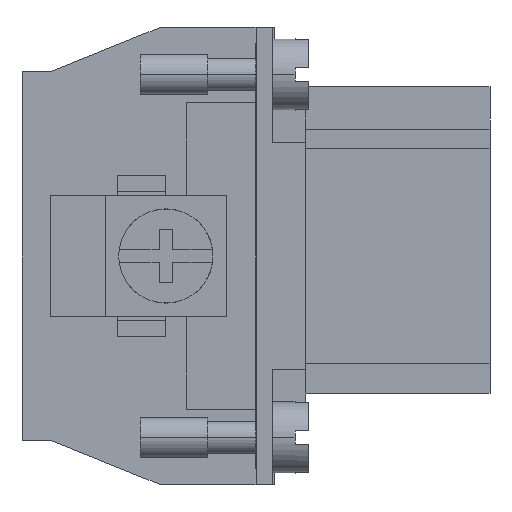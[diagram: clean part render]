
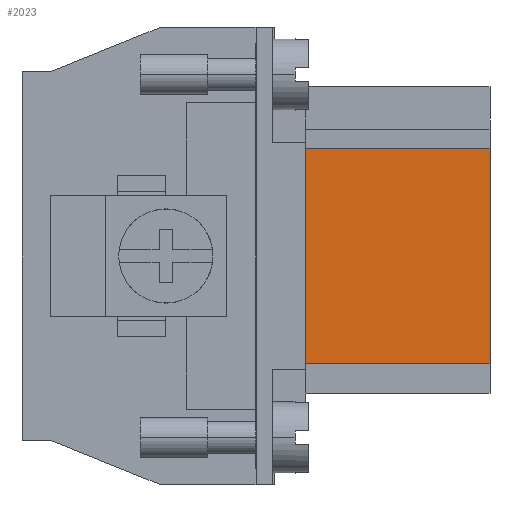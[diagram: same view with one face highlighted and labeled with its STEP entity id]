
A CAD part, left-side view. The second image highlights one B-rep face of the part: STEP entity #2023.
In plain terms, the highlighted planar face has unit normal (-1, 0, 0).
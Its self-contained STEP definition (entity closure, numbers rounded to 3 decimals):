
#646 = EDGE_CURVE ( 'NONE', #10344, #6629, #4685, .T. ) ;
#772 = ORIENTED_EDGE ( 'NONE', *, *, #646, .T. ) ;
#1366 = LINE ( 'NONE', #13672, #3648 ) ;
#1691 = ORIENTED_EDGE ( 'NONE', *, *, #11973, .F. ) ;
#1723 = VECTOR ( 'NONE', #7377, 1000. ) ;
#2023 = ADVANCED_FACE ( 'NONE', ( #4723 ), #13832, .T. ) ;
#3161 = VERTEX_POINT ( 'NONE', #10508 ) ;
#3350 = CARTESIAN_POINT ( 'NONE',  ( -14.7, 47.942, 8. ) ) ;
#3648 = VECTOR ( 'NONE', #9080, 1000. ) ;
#4258 = LINE ( 'NONE', #8298, #13118 ) ;
#4685 = LINE ( 'NONE', #6276, #1723 ) ;
#4723 = FACE_OUTER_BOUND ( 'NONE', #11702, .T. ) ;
#4967 = DIRECTION ( 'NONE',  ( 0., 0., -1. ) ) ;
#5486 = DIRECTION ( 'NONE',  ( 0., -1., 0. ) ) ;
#6145 = EDGE_CURVE ( 'NONE', #3161, #6629, #4258, .T. ) ;
#6276 = CARTESIAN_POINT ( 'NONE',  ( -14.7, 47.942, -8. ) ) ;
#6629 = VERTEX_POINT ( 'NONE', #12222 ) ;
#7287 = CARTESIAN_POINT ( 'NONE',  ( -14.7, 0., -8. ) ) ;
#7377 = DIRECTION ( 'NONE',  ( 0., -1., 0. ) ) ;
#7688 = ORIENTED_EDGE ( 'NONE', *, *, #13584, .F. ) ;
#7920 = VERTEX_POINT ( 'NONE', #12588 ) ;
#8298 = CARTESIAN_POINT ( 'NONE',  ( -14.7, -13.7, 8. ) ) ;
#8715 = LINE ( 'NONE', #3350, #12161 ) ;
#9080 = DIRECTION ( 'NONE',  ( 0., 0., 1. ) ) ;
#10025 = ORIENTED_EDGE ( 'NONE', *, *, #6145, .F. ) ;
#10344 = VERTEX_POINT ( 'NONE', #7287 ) ;
#10508 = CARTESIAN_POINT ( 'NONE',  ( -14.7, -13.7, 8. ) ) ;
#10695 = CARTESIAN_POINT ( 'NONE',  ( -14.7, 47.942, 8. ) ) ;
#11178 = AXIS2_PLACEMENT_3D ( 'NONE', #10695, #11672, #11777 ) ;
#11672 = DIRECTION ( 'NONE',  ( -1., 0., 0. ) ) ;
#11702 = EDGE_LOOP ( 'NONE', ( #772, #10025, #7688, #1691 ) ) ;
#11777 = DIRECTION ( 'NONE',  ( 0., 1., 0. ) ) ;
#11973 = EDGE_CURVE ( 'NONE', #10344, #7920, #1366, .T. ) ;
#12161 = VECTOR ( 'NONE', #5486, 1000. ) ;
#12222 = CARTESIAN_POINT ( 'NONE',  ( -14.7, -13.7, -8. ) ) ;
#12588 = CARTESIAN_POINT ( 'NONE',  ( -14.7, 0., 8. ) ) ;
#13118 = VECTOR ( 'NONE', #4967, 1000. ) ;
#13584 = EDGE_CURVE ( 'NONE', #7920, #3161, #8715, .T. ) ;
#13672 = CARTESIAN_POINT ( 'NONE',  ( -14.7, 0., 8. ) ) ;
#13832 = PLANE ( 'NONE',  #11178 ) ;
